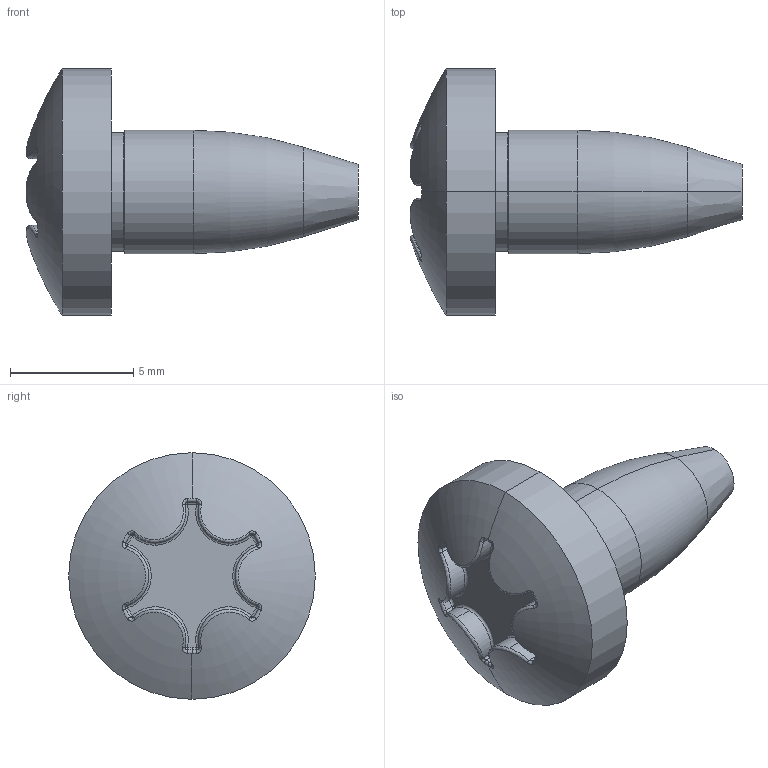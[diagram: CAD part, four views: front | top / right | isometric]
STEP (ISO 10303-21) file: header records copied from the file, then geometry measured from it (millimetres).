
FILE_DESCRIPTION (( 'STEP AP203' ), '1' );
FILE_NAME ('CNT05_V0.STEP', '2018-03-13T09:54:18', ( '' ), ( '' ), 'SwSTEP 2.0', 'SolidWorks 2017', '' );
FILE_SCHEMA (( 'CONFIG_CONTROL_DESIGN' ));
Length unit declared in the file: millimetre
Products named in the file (2): CNT05_V0
Bounding box: 13.46 x 10 x 10 mm (x, y, z)
Volume: 358.6 mm3; surface area: 368.8 mm2
Topology: 1 solids, 1 shells, 102 faces, 236 edges, 129 vertices
Faces by surface type: cylinder 35, torus 26, bspline 18, sphere 16, cone 4, plane 3
Entity records: 3686 total; most frequent: CARTESIAN_POINT 1379, DIRECTION 493, ORIENTED_EDGE 440, AXIS2_PLACEMENT_3D 227, EDGE_CURVE 220, CIRCLE 141, VERTEX_POINT 121, EDGE_LOOP 103
